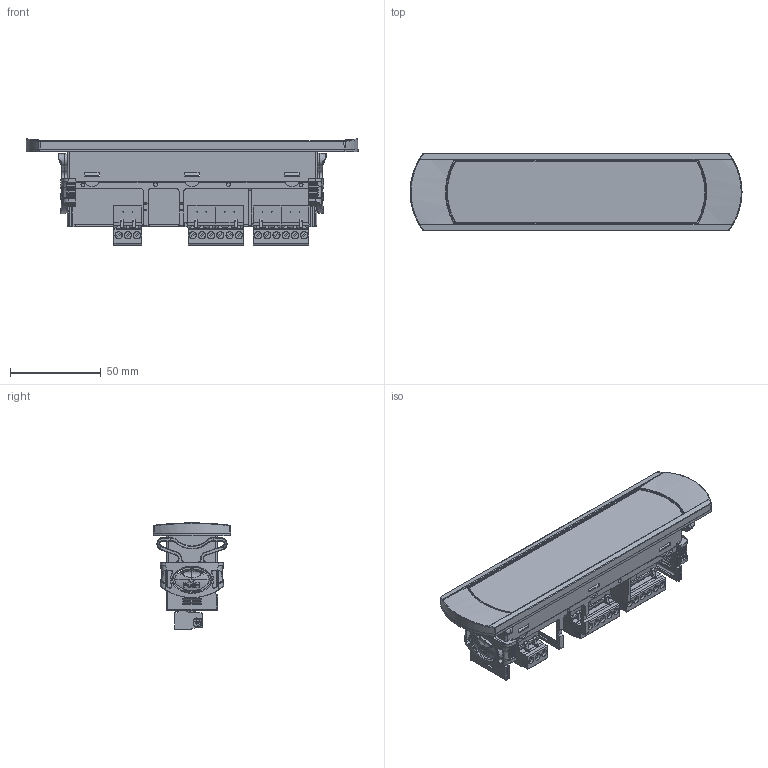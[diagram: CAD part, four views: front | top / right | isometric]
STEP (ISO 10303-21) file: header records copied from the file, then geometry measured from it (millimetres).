
FILE_DESCRIPTION (( 'STEP AP214' ), '1' );
FILE_NAME ('easy small wide_.STEP', '2017-01-31T15:31:41', ( '' ), ( '' ), 'SwSTEP 2.0', 'SolidWorks 2015', '' );
FILE_SCHEMA (( 'AUTOMOTIVE_DESIGN' ));
Length unit declared in the file: millimetre
Products named in the file (11): guarnizioneIR33wide-likePJeasy; easy small wide_; 18C716A045; 18C538A006_staffa; PBEVC0HNBA-assemblyIR33+WIDE_PJversion; 1757022; 1757051; 18C716A043; 18C716A046; 18C559A001_retro; 2219835AXX_MORSETTO_3VIE
Assembly tree (16 placements, depth 4):
  easy small wide_
    18C559A001_retro
    2219835AXX_MORSETTO_3VIE  x5
    18C538A006_staffa  x2
    PBEVC0HNBA-assemblyIR33+WIDE_PJversion
      18C716A045
        18C716A043
      18C716A046
    1757022
    1757051  x2
    guarnizioneIR33wide-likePJeasy
Bounding box: 182.7 x 42.5 x 58.45 mm (x, y, z)
Volume: 12810 mm3; surface area: 54516.8 mm2
Topology: 3 solids, 21 shells, 3242 faces, 8570 edges, 5581 vertices
Faces by surface type: plane 2171, cylinder 536, bspline 327, cone 189, sphere 15, torus 4
Full cylindrical faces by diameter (mm): 0.434 x5, 0.609 x3, 1.4 x21, 2.8 x27, 3.783 x15, 4 x19
Entity records: 80877 total; most frequent: CARTESIAN_POINT 31854, ORIENTED_EDGE 8777, DIRECTION 6621, EDGE_CURVE 4617, VERTEX_POINT 3105, LINE 2655, VECTOR 2655, AXIS2_PLACEMENT_3D 1983
